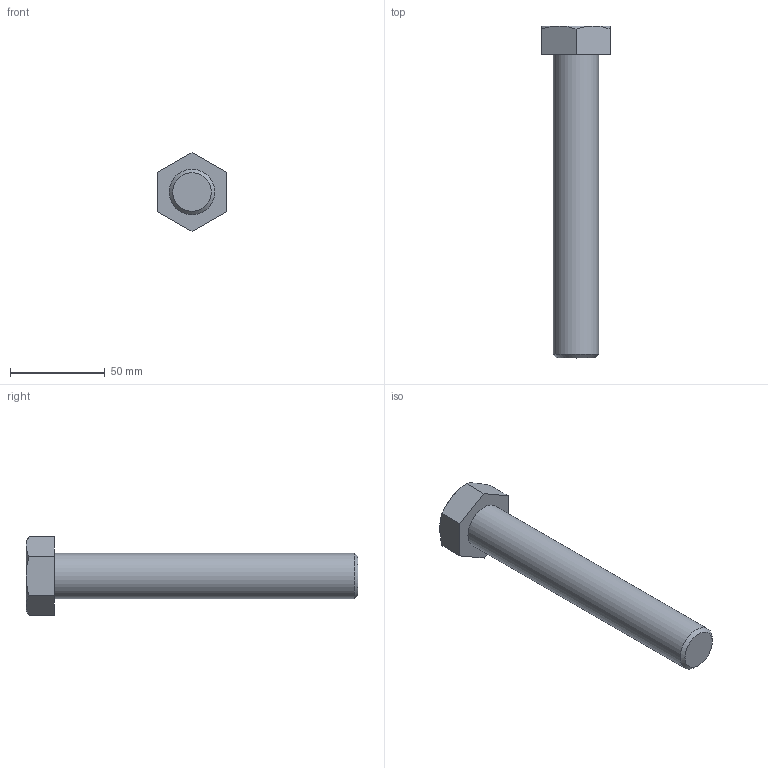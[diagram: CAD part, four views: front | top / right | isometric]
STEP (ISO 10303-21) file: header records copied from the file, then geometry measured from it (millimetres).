
FILE_DESCRIPTION(/* description */ (''),/* implementation_level */ '2;1');
FILE_NAME(/* name */ 'C:\Users\unitec\Documents\Inventor\各種小物\JIS\JIS B 1180 六角ボルト 等級C\hbc24\M24x160.stp',/* time_stamp */ '2015-02-13T14:54:26+09:00',/* author */ ('unitec'),/* organization */ (''),/* preprocessor_version */ 'ST-DEVELOPER v15.2',/* originating_system */ 'Autodesk Inventor 2014',/* authorisation */ '');
FILE_SCHEMA (('AUTOMOTIVE_DESIGN { 1 0 10303 214 3 1 1 }'));
Length unit declared in the file: millimetre
Products named in the file (1): M24x160
Bounding box: 36 x 175 x 41.57 mm (x, y, z)
Volume: 89046.1 mm3; surface area: 16040.8 mm2
Topology: 1 solids, 1 shells, 17 faces, 35 edges, 21 vertices
Faces by surface type: plane 9, cone 7, cylinder 1
Full cylindrical faces by diameter (mm): 24 x1
Entity records: 441 total; most frequent: CARTESIAN_POINT 96, ORIENTED_EDGE 66, DIRECTION 66, EDGE_CURVE 33, AXIS2_PLACEMENT_3D 27, VERTEX_POINT 21, EDGE_LOOP 20, ADVANCED_FACE 17
